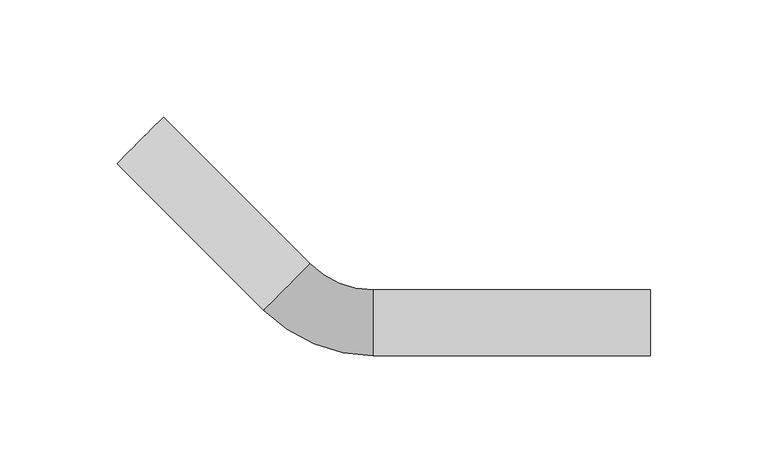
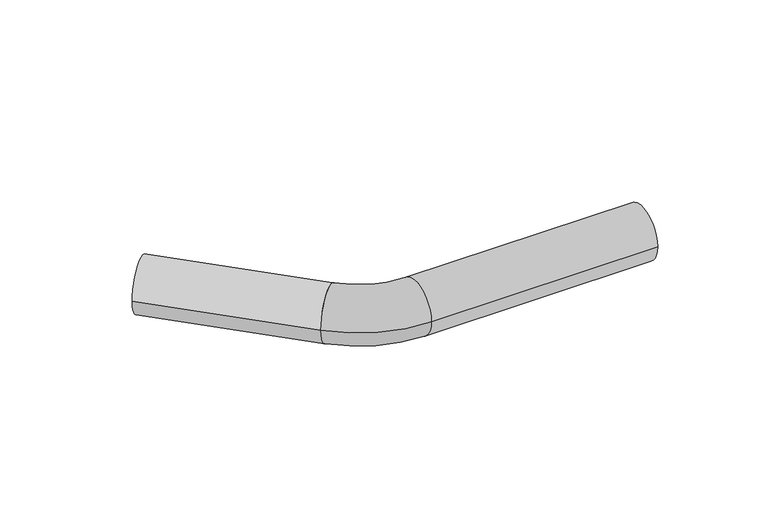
"""IFC4 building model written with IfcOpenShell, lengths in millimetres: pipe fitting geometry, VALTEC_VTi.955.I_Отвод безраструбный_нержавеющая : VTi.955.I."""

from ifc_helpers import new_model, si_unit, point, frame, origin, origin_2d, place, context, project, spatial, circle_curve, ellipse_curve, trimmed, segment, composite_curve, outline, extrude, source, transform, mapped, element, save
from ifc_brep_helpers import plane_surface, revolved_surface, advanced_brep


def pipe_fitting_dae73947(model_context):
    return source(origin(), model_context, "Body", "SolidModel", [
        advanced_brep(
        [(21.6, -14.0, 0.0), (21.6, 14.0, 0.0), (-25.0690476, 5.3309524, 0.0), (-5.2700577, 25.1299423, 0.0)],
        [
            (0, 1, circle_curve(frame((21.6, 0.0, 0.0), z_axis=(1.0, 0.0, 0.0), x_axis=(0.0, 1.0, 0.0)), 14.0)),
            (1, 0, circle_curve(frame((21.6, 0.0, 0.0), z_axis=(1.0, 0.0, 0.0), x_axis=(0.0, 1.0, 0.0)), 14.0)),
            (2, 3, circle_curve(frame((-15.1695526, 15.2304474, 0.0), z_axis=(-0.7071067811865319, 0.7071067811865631, 0.0), x_axis=(0.7071067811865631, 0.7071067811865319, 0.0)), 14.0)),
            (3, 2, circle_curve(frame((-15.1695526, 15.2304474, 0.0), z_axis=(-0.7071067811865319, 0.7071067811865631, 0.0), x_axis=(0.7071067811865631, 0.7071067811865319, 0.0)), 14.0)),
            (2, 0, circle_curve(frame((21.6, 52.0, 0.0), z_axis=(0.0, 0.0, 1.0), x_axis=(0.0, -1.0, 0.0)), 66.0)),
            (1, 3, circle_curve(frame((21.6, 52.0, 0.0), z_axis=(0.0, 0.0, -1.0), x_axis=(0.0, -1.0, 0.0)), 38.0)),
        ],
        [
            plane_surface(frame((21.6, 0.0, 0.0), z_axis=(1.0, 0.0, 0.0), x_axis=(0.0, 0.0, 1.0))),
            plane_surface(frame((-15.1695526, 15.2304474, 0.0), z_axis=(-0.7071067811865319, 0.7071067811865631, 0.0), x_axis=(0.0, 0.0, 1.0))),
            revolved_surface(trimmed(ellipse_curve(frame((21.6, 0.0, 0.0), z_axis=(-1.0, 0.0, 0.0), x_axis=(0.0, 1.0, 0.0)), 14.0, 14.0), [point((21.6, -14.0, 0.0))], [point((21.6, 14.0, 0.0))], True, "CARTESIAN"), (21.6, 52.0, 0.0), (0.0, 0.0, 1.0)),
            revolved_surface(trimmed(ellipse_curve(frame((21.6, 0.0, 0.0), z_axis=(-1.0, 0.0, 0.0), x_axis=(0.0, 1.0, 0.0)), 14.0, 14.0), [point((21.6, 14.0, 0.0))], [point((21.6, -14.0, 0.0))], True, "CARTESIAN"), (21.6, 52.0, 0.0), (0.0, 0.0, 1.0)),
        ],
        [
            (0, [[1, 2]]),
            (1, [[3, 4]]),
            (2, [[-3, 5, -2, 6]]),
            (3, [[-4, -6, -1, -5]]),
        ],
    ),
        extrude(outline(composite_curve([segment(trimmed(circle_curve(origin_2d(), 14.0), [point((0.0, 13.9999999))], [point((0.0, -13.9999999))], False, "CARTESIAN"), True, "CONTINUOUS"), segment(trimmed(circle_curve(origin_2d(), 14.0), [point((0.0, -13.9999999))], [point((0.0, 13.9999999))], False, "CARTESIAN"), True, "CONTINUOUS")], self_intersect=False)), frame((-15.2027958, 15.2027958, 0.0), z_axis=(-0.7071067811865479, 0.7071067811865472, 0.0), x_axis=(0.0, 0.0, 1.0)), (0.0, 0.0, 1.0), 88.5),
        extrude(outline(composite_curve([segment(trimmed(circle_curve(origin_2d(), 14.0), [point((14.0, 0.0))], [point((-14.0, 0.0))], False, "CARTESIAN"), True, "CONTINUOUS"), segment(trimmed(circle_curve(origin_2d(), 14.0), [point((-14.0, 0.0))], [point((14.0, 0.0))], False, "CARTESIAN"), True, "CONTINUOUS")], self_intersect=False)), frame((21.6, 0.0, 0.0), z_axis=(1.0, 0.0, 0.0), x_axis=(0.0, 1.0, 0.0)), (0.0, 0.0, 1.0), 118.4),
    ])


if __name__ == "__main__":
    model = new_model("IFC4")
    model_context = context("Model", 3, world=origin())
    ifc_project = project(units=[si_unit("LENGTHUNIT", "METRE", prefix="MILLI")], contexts=[model_context])
    site = spatial("IfcSite", under=ifc_project)
    building = spatial("IfcBuilding", under=site)
    placement = place(None, origin())
    pipe_fitting_shape = pipe_fitting_dae73947(model_context)
    element("IfcPipeFitting", 1, ObjectType="VALTEC_VTi.955.I_Отвод безраструбный_нержавеющая : VTi.955.I", at=placement, inside=building, context=model_context, shape_type="MappedRepresentation", body=[
        mapped(pipe_fitting_shape, transform((0.0, 0.0, 0.0), x_axis=(1.0, 0.0, 0.0), y_axis=(0.0, 1.0, 0.0), z_axis=(0.0, 0.0, 1.0))),
    ])
    save(model, "model.ifc")
